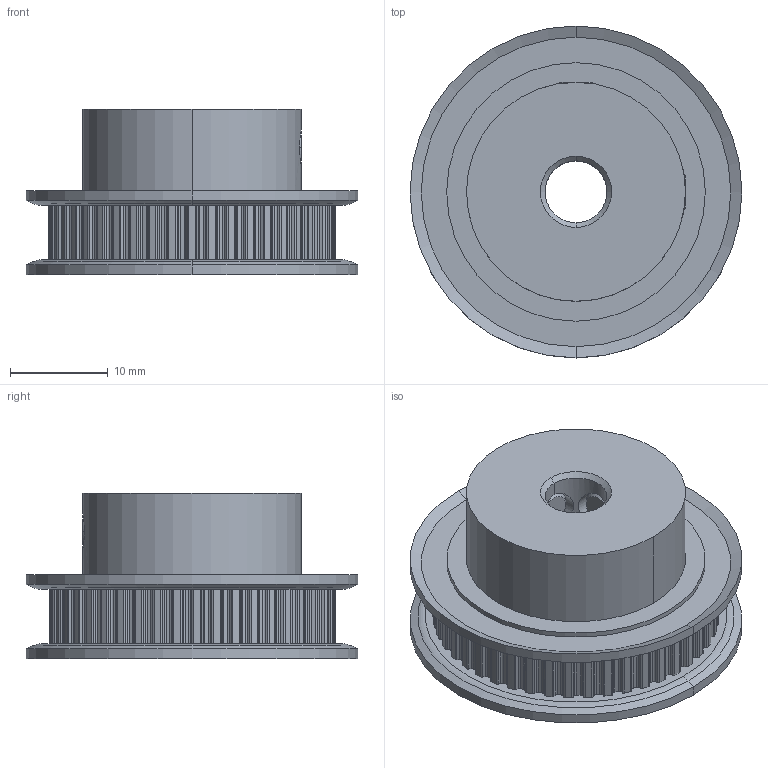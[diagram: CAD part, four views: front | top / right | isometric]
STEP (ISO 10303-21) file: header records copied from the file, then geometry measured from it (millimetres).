
FILE_DESCRIPTION((''),'2;1');
FILE_NAME('45420','2011-01-23T',('carefree'),(''),'PRO/ENGINEER BY PARAMETRIC TECHNOLOGY CORPORATION, 2005030','PRO/ENGINEER BY PARAMETRIC TECHNOLOGY CORPORATION, 2005030','');
FILE_SCHEMA(('CONFIG_CONTROL_DESIGN'));
Length unit declared in the file: inch
Products named in the file (1): 45420
Bounding box: 34.04 x 34.04 x 16.97 mm (x, y, z)
Volume: 8834.9 mm3; surface area: 4189.3 mm2
Topology: 1 solids, 1 shells, 429 faces, 1238 edges, 820 vertices
Faces by surface type: cylinder 245, plane 160, cone 20, torus 4
Entity records: 14714 total; most frequent: CARTESIAN_POINT 2889, DIRECTION 2608, ORIENTED_EDGE 2476, EDGE_CURVE 1238, AXIS2_PLACEMENT_3D 949, VERTEX_POINT 820, VECTOR 710, LINE 710
